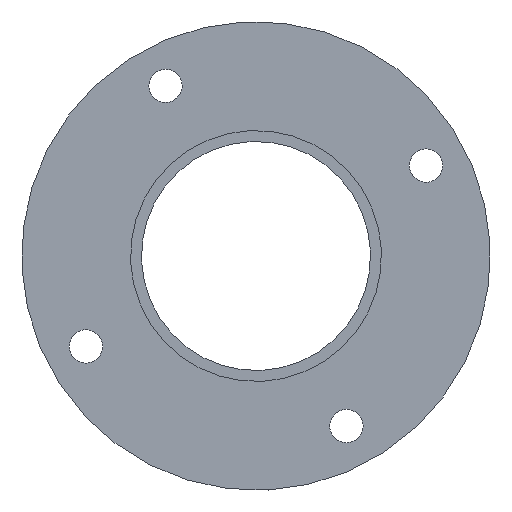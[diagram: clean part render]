
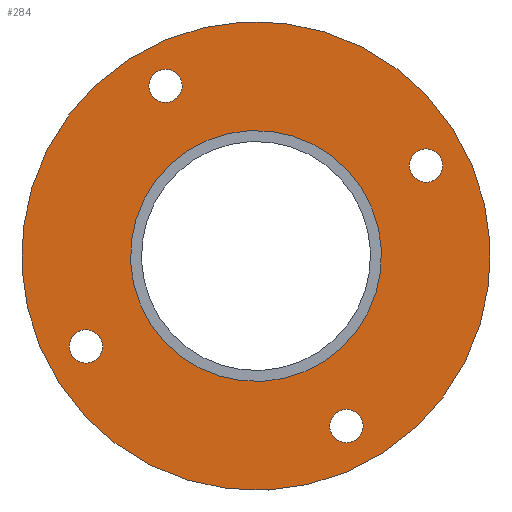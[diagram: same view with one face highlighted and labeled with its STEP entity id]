
A CAD part, left-side view. The second image highlights one B-rep face of the part: STEP entity #284.
In plain terms, the highlighted planar face has unit normal (-1, 0, 0).
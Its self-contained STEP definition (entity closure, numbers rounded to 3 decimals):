
#15=FACE_BOUND('',#67,.T.);
#16=FACE_BOUND('',#68,.T.);
#17=FACE_BOUND('',#69,.T.);
#18=FACE_BOUND('',#70,.T.);
#19=FACE_BOUND('',#71,.T.);
#26=PLANE('',#328);
#48=FACE_OUTER_BOUND('',#66,.T.);
#66=EDGE_LOOP('',(#230));
#67=EDGE_LOOP('',(#231));
#68=EDGE_LOOP('',(#232));
#69=EDGE_LOOP('',(#233));
#70=EDGE_LOOP('',(#234));
#71=EDGE_LOOP('',(#235));
#129=CIRCLE('',#329,22.5);
#130=CIRCLE('',#330,1.6);
#131=CIRCLE('',#331,12.05);
#132=CIRCLE('',#332,1.6);
#133=CIRCLE('',#333,1.6);
#134=CIRCLE('',#334,1.6);
#151=VERTEX_POINT('',#487);
#152=VERTEX_POINT('',#489);
#153=VERTEX_POINT('',#491);
#154=VERTEX_POINT('',#493);
#155=VERTEX_POINT('',#495);
#156=VERTEX_POINT('',#497);
#181=EDGE_CURVE('',#151,#151,#129,.F.);
#182=EDGE_CURVE('',#152,#152,#130,.T.);
#183=EDGE_CURVE('',#153,#153,#131,.T.);
#184=EDGE_CURVE('',#154,#154,#132,.T.);
#185=EDGE_CURVE('',#155,#155,#133,.T.);
#186=EDGE_CURVE('',#156,#156,#134,.T.);
#230=ORIENTED_EDGE('',*,*,#181,.T.);
#231=ORIENTED_EDGE('',*,*,#182,.T.);
#232=ORIENTED_EDGE('',*,*,#183,.T.);
#233=ORIENTED_EDGE('',*,*,#184,.T.);
#234=ORIENTED_EDGE('',*,*,#185,.T.);
#235=ORIENTED_EDGE('',*,*,#186,.T.);
#284=ADVANCED_FACE('',(#48,#15,#16,#17,#18,#19),#26,.T.);
#328=AXIS2_PLACEMENT_3D('',#486,#398,#399);
#329=AXIS2_PLACEMENT_3D('',#488,#400,#401);
#330=AXIS2_PLACEMENT_3D('',#490,#402,#403);
#331=AXIS2_PLACEMENT_3D('',#492,#404,#405);
#332=AXIS2_PLACEMENT_3D('',#494,#406,#407);
#333=AXIS2_PLACEMENT_3D('',#496,#408,#409);
#334=AXIS2_PLACEMENT_3D('',#498,#410,#411);
#398=DIRECTION('center_axis',(-1.,0.,0.));
#399=DIRECTION('ref_axis',(0.,-0.052,-0.999));
#400=DIRECTION('center_axis',(1.,0.,0.));
#401=DIRECTION('ref_axis',(0.,0.052,0.999));
#402=DIRECTION('center_axis',(1.,0.,0.));
#403=DIRECTION('ref_axis',(0.,0.956,0.292));
#404=DIRECTION('center_axis',(1.,0.,0.));
#405=DIRECTION('ref_axis',(0.,-0.052,-0.999));
#406=DIRECTION('center_axis',(1.,0.,0.));
#407=DIRECTION('ref_axis',(0.,-0.469,-0.883));
#408=DIRECTION('center_axis',(1.,0.,0.));
#409=DIRECTION('ref_axis',(0.,-0.469,-0.883));
#410=DIRECTION('center_axis',(1.,0.,0.));
#411=DIRECTION('ref_axis',(0.,0.883,-0.469));
#486=CARTESIAN_POINT('Origin',(104.226,-309.804,5.896));
#487=CARTESIAN_POINT('',(104.226,-310.982,-16.573));
#488=CARTESIAN_POINT('Origin',(104.226,-309.804,5.896));
#489=CARTESIAN_POINT('',(104.226,-302.649,21.763));
#490=CARTESIAN_POINT('Origin',(104.226,-301.119,22.231));
#491=CARTESIAN_POINT('',(104.226,-310.435,-6.137));
#492=CARTESIAN_POINT('Origin',(104.226,-309.804,5.896));
#493=CARTESIAN_POINT('',(104.226,-292.718,-1.376));
#494=CARTESIAN_POINT('Origin',(104.226,-293.47,-2.789));
#495=CARTESIAN_POINT('',(104.226,-317.738,-9.026));
#496=CARTESIAN_POINT('Origin',(104.226,-318.489,-10.438));
#497=CARTESIAN_POINT('',(104.226,-327.551,15.333));
#498=CARTESIAN_POINT('Origin',(104.226,-326.139,14.581));
